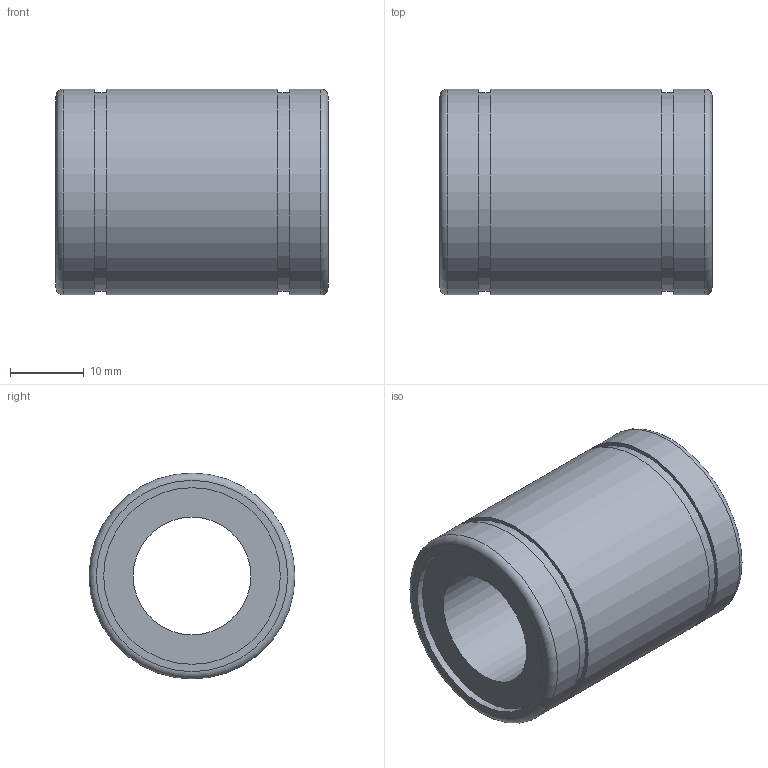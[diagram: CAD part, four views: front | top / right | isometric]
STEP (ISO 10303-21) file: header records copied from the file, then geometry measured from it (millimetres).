
FILE_DESCRIPTION(('STEP AP214'), '1');
FILE_NAME('LM-16', '', ('UNSPECIFIED'), ('UNSPECIFIED'), 'ASCON STEP Converter 1.3', 'ASCON Math Kernel', '');
FILE_SCHEMA(('AUTOMOTIVE_DESIGN { 1 0 10303 214 3 1 1}'));
Length unit declared in the file: millimetre
Bounding box: 37 x 28 x 28 mm (x, y, z)
Volume: 14665.5 mm3; surface area: 6080.5 mm2
Topology: 1 solids, 1 shells, 18 faces, 28 edges, 18 vertices
Faces by surface type: plane 8, cylinder 8, torus 2
Full cylindrical faces by diameter (mm): 16 x1, 24 x2, 27 x2, 28 x3
Entity records: 556 total; most frequent: DIRECTION 74, CARTESIAN_POINT 55, AXIS2_PLACEMENT_3D 37, EDGE_LOOP 36, ORIENTED_EDGE 36, FACE_OUTER_BOUND 20, COLOUR_RGB 19, FILL_AREA_STYLE_COLOUR 19
